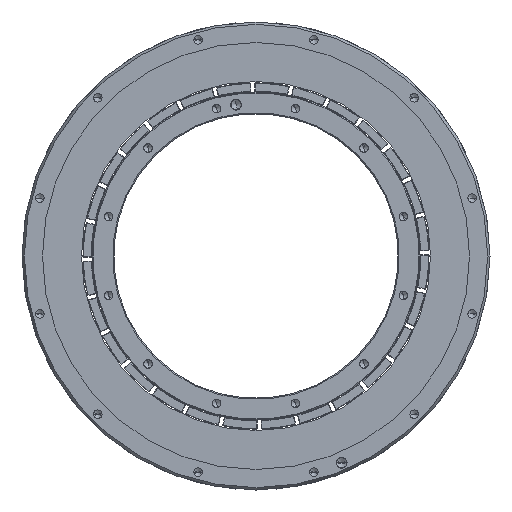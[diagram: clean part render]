
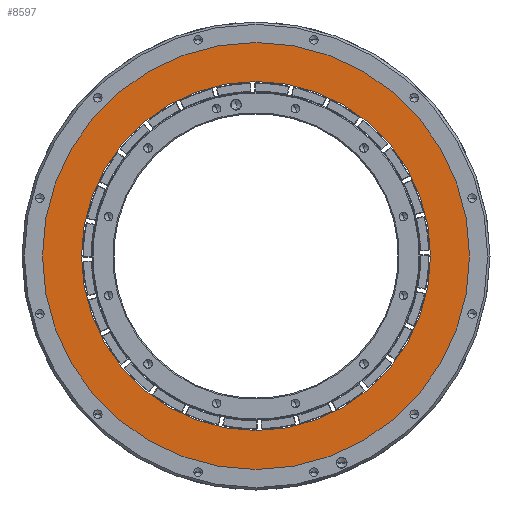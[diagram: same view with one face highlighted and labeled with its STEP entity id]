
A CAD part, front view. The second image highlights one B-rep face of the part: STEP entity #8597.
In plain terms, the highlighted planar face has unit normal (0, -1, 0).
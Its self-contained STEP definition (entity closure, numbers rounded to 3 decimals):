
#498 = CARTESIAN_POINT ( 'NONE',  ( 0., -44., 0. ) ) ;
#856 = VERTEX_POINT ( 'NONE', #32473 ) ;
#898 = AXIS2_PLACEMENT_3D ( 'NONE', #34583, #13107, #4753 ) ;
#1272 = ORIENTED_EDGE ( 'NONE', *, *, #4365, .F. ) ;
#1522 = EDGE_CURVE ( 'NONE', #32029, #856, #15688, .T. ) ;
#1741 = FACE_OUTER_BOUND ( 'NONE', #2272, .T. ) ;
#2272 = EDGE_LOOP ( 'NONE', ( #26978, #29750 ) ) ;
#2741 = DIRECTION ( 'NONE',  ( 0., 0., -1. ) ) ;
#3714 = DIRECTION ( 'NONE',  ( 0., 0., -1. ) ) ;
#4365 = EDGE_CURVE ( 'NONE', #29199, #34123, #32300, .T. ) ;
#4753 = DIRECTION ( 'NONE',  ( 0., 0., -1. ) ) ;
#5409 = DIRECTION ( 'NONE',  ( 0., -1., 0. ) ) ;
#5666 = DIRECTION ( 'NONE',  ( 0., -1., 0. ) ) ;
#5828 = AXIS2_PLACEMENT_3D ( 'NONE', #498, #5666, #3714 ) ;
#7439 = FACE_BOUND ( 'NONE', #20653, .T. ) ;
#8597 = ADVANCED_FACE ( 'NONE', ( #7439, #1741 ), #29091, .T. ) ;
#10386 = DIRECTION ( 'NONE',  ( 0., 0., -1. ) ) ;
#10433 = CARTESIAN_POINT ( 'NONE',  ( 0., -44., 85.765 ) ) ;
#10454 = ORIENTED_EDGE ( 'NONE', *, *, #33117, .F. ) ;
#13053 = CARTESIAN_POINT ( 'NONE',  ( 0., -44., -85.765 ) ) ;
#13107 = DIRECTION ( 'NONE',  ( 0., -1., 0. ) ) ;
#15129 = CIRCLE ( 'NONE', #25904, 104.935 ) ;
#15256 = CARTESIAN_POINT ( 'NONE',  ( 0., -44., 0. ) ) ;
#15688 = CIRCLE ( 'NONE', #29829, 104.935 ) ;
#20653 = EDGE_LOOP ( 'NONE', ( #1272, #10454 ) ) ;
#23424 = CARTESIAN_POINT ( 'NONE',  ( 0., -44., -104.935 ) ) ;
#25424 = EDGE_CURVE ( 'NONE', #856, #32029, #15129, .T. ) ;
#25904 = AXIS2_PLACEMENT_3D ( 'NONE', #32681, #29870, #10386 ) ;
#26978 = ORIENTED_EDGE ( 'NONE', *, *, #1522, .T. ) ;
#27361 = CIRCLE ( 'NONE', #5828, 85.765 ) ;
#28237 = DIRECTION ( 'NONE',  ( 0., 0., -1. ) ) ;
#29091 = PLANE ( 'NONE',  #898 ) ;
#29199 = VERTEX_POINT ( 'NONE', #13053 ) ;
#29733 = CARTESIAN_POINT ( 'NONE',  ( 0., -44., 0. ) ) ;
#29750 = ORIENTED_EDGE ( 'NONE', *, *, #25424, .T. ) ;
#29829 = AXIS2_PLACEMENT_3D ( 'NONE', #29733, #5409, #2741 ) ;
#29870 = DIRECTION ( 'NONE',  ( 0., -1., 0. ) ) ;
#30609 = AXIS2_PLACEMENT_3D ( 'NONE', #15256, #31229, #28237 ) ;
#31229 = DIRECTION ( 'NONE',  ( 0., -1., 0. ) ) ;
#32029 = VERTEX_POINT ( 'NONE', #23424 ) ;
#32300 = CIRCLE ( 'NONE', #30609, 85.765 ) ;
#32473 = CARTESIAN_POINT ( 'NONE',  ( 0., -44., 104.935 ) ) ;
#32681 = CARTESIAN_POINT ( 'NONE',  ( 0., -44., 0. ) ) ;
#33117 = EDGE_CURVE ( 'NONE', #34123, #29199, #27361, .T. ) ;
#34123 = VERTEX_POINT ( 'NONE', #10433 ) ;
#34583 = CARTESIAN_POINT ( 'NONE',  ( 0., -44., 0. ) ) ;
